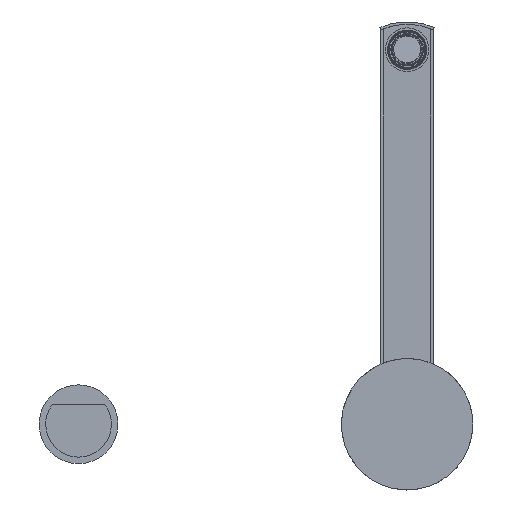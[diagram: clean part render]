
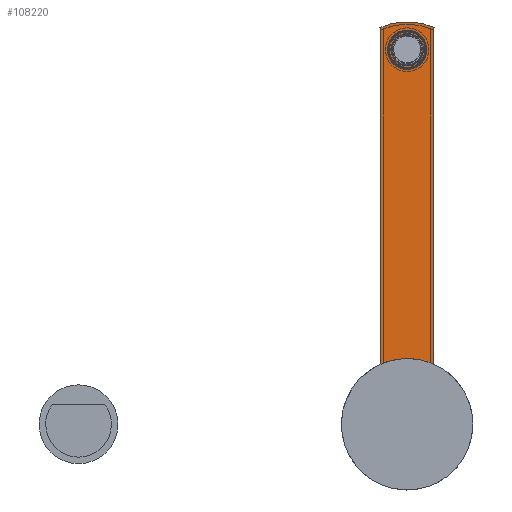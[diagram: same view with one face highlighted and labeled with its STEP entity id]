
A CAD part, front view. The second image highlights one B-rep face of the part: STEP entity #108220.
In plain terms, the highlighted planar face has unit normal (0, -1, 0).
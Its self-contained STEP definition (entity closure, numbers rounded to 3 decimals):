
#48440=DIRECTION('',(0.,0.,-1.));
#48441=VECTOR('',#48440,228.018);
#48442=CARTESIAN_POINT('',(184.,249.,240.018));
#48443=LINE('',#48442,#48441);
#48444=DIRECTION('',(0.416,0.,-0.91));
#48445=VECTOR('',#48444,1.5);
#48446=CARTESIAN_POINT('',(183.377,249.,241.382));
#48447=LINE('',#48446,#48445);
#48448=CARTESIAN_POINT('',(200.,249.,205.));
#48449=DIRECTION('',(0.,1.,0.));
#48450=DIRECTION('',(-0.416,0.,0.91));
#48451=AXIS2_PLACEMENT_3D('',#48448,#48449,#48450);
#48453=DIRECTION('',(0.416,0.,0.91));
#48454=VECTOR('',#48453,1.5);
#48455=CARTESIAN_POINT('',(216.,249.,240.018));
#48456=LINE('',#48455,#48454);
#48457=DIRECTION('',(0.,0.,1.));
#48458=VECTOR('',#48457,228.018);
#48459=CARTESIAN_POINT('',(216.,249.,12.));
#48460=LINE('',#48459,#48458);
#48461=CARTESIAN_POINT('',(200.,249.,0.));
#48462=DIRECTION('',(0.,-1.,0.));
#48463=DIRECTION('',(0.8,0.,0.6));
#48464=AXIS2_PLACEMENT_3D('',#48461,#48462,#48463);
#49440=CARTESIAN_POINT('',(200.,249.,228.));
#49441=DIRECTION('',(0.,-1.,0.));
#49442=DIRECTION('',(-1.,0.,0.));
#49443=AXIS2_PLACEMENT_3D('',#49440,#49441,#49442);
#49449=CARTESIAN_POINT('',(200.,249.,228.));
#49450=DIRECTION('',(0.,-1.,0.));
#49451=DIRECTION('',(1.,0.,0.));
#49452=AXIS2_PLACEMENT_3D('',#49449,#49450,#49451);
#51213=CARTESIAN_POINT('',(184.,249.,12.));
#51215=VERTEX_POINT('',#51213);
#51217=CARTESIAN_POINT('',(216.,249.,12.));
#51219=VERTEX_POINT('',#51217);
#51259=CARTESIAN_POINT('',(216.623,249.,241.382));
#51261=VERTEX_POINT('',#51259);
#51264=CARTESIAN_POINT('',(183.377,249.,241.382));
#51266=VERTEX_POINT('',#51264);
#51272=CARTESIAN_POINT('',(184.,249.,240.018));
#51274=VERTEX_POINT('',#51272);
#51276=CARTESIAN_POINT('',(216.,249.,240.018));
#51278=VERTEX_POINT('',#51276);
#58437=CARTESIAN_POINT('',(190.577,249.,228.));
#58438=CARTESIAN_POINT('',(209.423,249.,228.));
#58439=VERTEX_POINT('',#58437);
#58440=VERTEX_POINT('',#58438);
#108197=CARTESIAN_POINT('',(216.,249.,240.018));
#108198=DIRECTION('',(0.,-1.,0.));
#108199=DIRECTION('',(0.,0.,-1.));
#108200=AXIS2_PLACEMENT_3D('',#108197,#108198,#108199);
#108201=PLANE('',#108200);
#108202=ORIENTED_EDGE('',*,*,#108181,.F.);
#108203=ORIENTED_EDGE('',*,*,#108170,.F.);
#108205=ORIENTED_EDGE('',*,*,#108204,.T.);
#108207=ORIENTED_EDGE('',*,*,#108206,.F.);
#108209=ORIENTED_EDGE('',*,*,#108208,.F.);
#108211=ORIENTED_EDGE('',*,*,#108210,.T.);
#108212=EDGE_LOOP('',(#108202,#108203,#108205,#108207,#108209,#108211));
#108213=FACE_OUTER_BOUND('',#108212,.F.);
#108215=ORIENTED_EDGE('',*,*,#108214,.T.);
#108217=ORIENTED_EDGE('',*,*,#108216,.T.);
#108218=EDGE_LOOP('',(#108215,#108217));
#108219=FACE_BOUND('',#108218,.F.);
#108220=ADVANCED_FACE('',(#108213,#108219),#108201,.T.);
#48452=CIRCLE('',#48451,40.);
#48465=CIRCLE('',#48464,20.);
#49444=CIRCLE('',#49443,9.423);
#49453=CIRCLE('',#49452,9.423);
#108170=EDGE_CURVE('',#51266,#51274,#48447,.T.);
#108181=EDGE_CURVE('',#51274,#51215,#48443,.T.);
#108204=EDGE_CURVE('',#51266,#51261,#48452,.T.);
#108206=EDGE_CURVE('',#51278,#51261,#48456,.T.);
#108208=EDGE_CURVE('',#51219,#51278,#48460,.T.);
#108210=EDGE_CURVE('',#51219,#51215,#48465,.T.);
#108214=EDGE_CURVE('',#58439,#58440,#49444,.T.);
#108216=EDGE_CURVE('',#58440,#58439,#49453,.T.);
